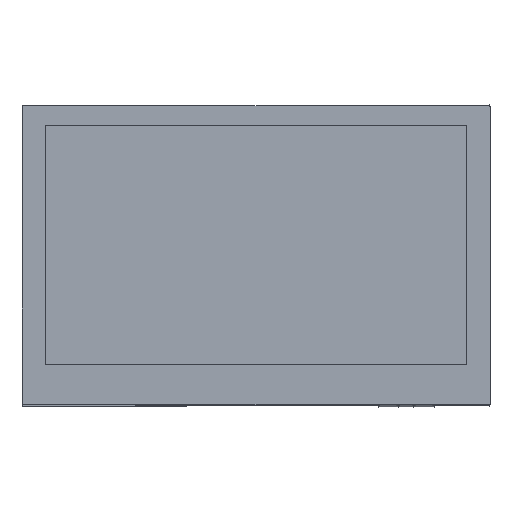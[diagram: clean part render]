
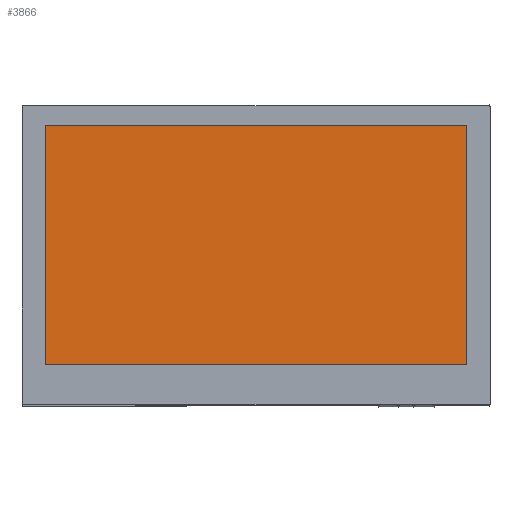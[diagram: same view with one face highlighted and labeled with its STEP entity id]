
A CAD part, top view. The second image highlights one B-rep face of the part: STEP entity #3866.
In plain terms, the highlighted planar face has unit normal (0, 0, 1).
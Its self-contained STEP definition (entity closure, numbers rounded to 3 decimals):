
#2410=DIRECTION('',(1.,0.,0.));
#2411=VECTOR('',#2410,95.54);
#2412=CARTESIAN_POINT('',(-47.77,27.18,4.775));
#2413=LINE('',#2412,#2411);
#2424=DIRECTION('',(0.,-1.,0.));
#2425=VECTOR('',#2424,54.36);
#2426=CARTESIAN_POINT('',(47.77,27.18,4.775));
#2427=LINE('',#2426,#2425);
#2438=DIRECTION('',(-1.,0.,0.));
#2439=VECTOR('',#2438,95.54);
#2440=CARTESIAN_POINT('',(47.77,-27.18,4.775));
#2441=LINE('',#2440,#2439);
#2452=DIRECTION('',(0.,1.,0.));
#2453=VECTOR('',#2452,54.36);
#2454=CARTESIAN_POINT('',(-47.77,-27.18,4.775));
#2455=LINE('',#2454,#2453);
#2888=CARTESIAN_POINT('',(-47.77,27.18,4.775));
#2889=CARTESIAN_POINT('',(47.77,27.18,4.775));
#2890=VERTEX_POINT('',#2888);
#2891=VERTEX_POINT('',#2889);
#2892=CARTESIAN_POINT('',(47.77,-27.18,4.775));
#2893=VERTEX_POINT('',#2892);
#2894=CARTESIAN_POINT('',(-47.77,-27.18,4.775));
#2895=VERTEX_POINT('',#2894);
#3852=CARTESIAN_POINT('',(0.,0.,4.775));
#3853=DIRECTION('',(0.,0.,-1.));
#3854=DIRECTION('',(-1.,0.,0.));
#3855=AXIS2_PLACEMENT_3D('',#3852,#3853,#3854);
#3856=PLANE('',#3855);
#3857=ORIENTED_EDGE('',*,*,#3842,.T.);
#3859=ORIENTED_EDGE('',*,*,#3858,.T.);
#3861=ORIENTED_EDGE('',*,*,#3860,.T.);
#3863=ORIENTED_EDGE('',*,*,#3862,.T.);
#3864=EDGE_LOOP('',(#3857,#3859,#3861,#3863));
#3865=FACE_OUTER_BOUND('',#3864,.F.);
#3866=ADVANCED_FACE('',(#3865),#3856,.F.);
#3842=EDGE_CURVE('',#2890,#2891,#2413,.T.);
#3858=EDGE_CURVE('',#2891,#2893,#2427,.T.);
#3860=EDGE_CURVE('',#2893,#2895,#2441,.T.);
#3862=EDGE_CURVE('',#2895,#2890,#2455,.T.);
